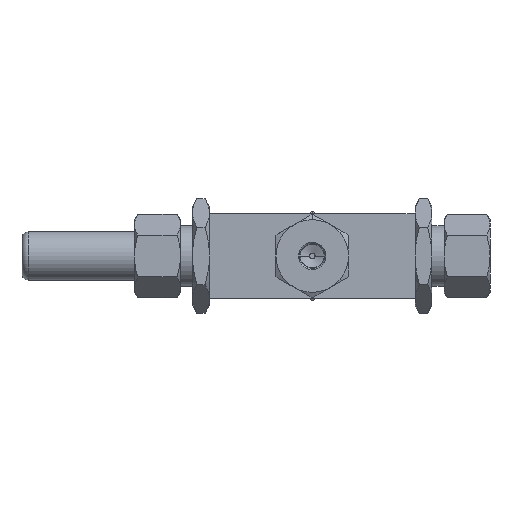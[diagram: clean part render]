
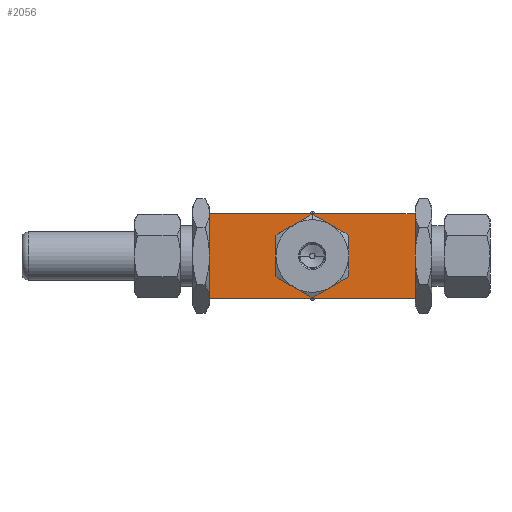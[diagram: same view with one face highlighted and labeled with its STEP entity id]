
A CAD part, front view. The second image highlights one B-rep face of the part: STEP entity #2056.
In plain terms, the highlighted planar face has unit normal (0, -1, 0).
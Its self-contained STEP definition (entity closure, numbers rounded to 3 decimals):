
#29 = LINE ( 'NONE', #6146, #4836 ) ;
#35 = ORIENTED_EDGE ( 'NONE', *, *, #4477, .T. ) ;
#40 = ORIENTED_EDGE ( 'NONE', *, *, #263, .F. ) ;
#58 = DIRECTION ( 'NONE',  ( 1., 0., 0. ) ) ;
#136 = ORIENTED_EDGE ( 'NONE', *, *, #167, .F. ) ;
#167 = EDGE_CURVE ( 'NONE', #4623, #2616, #2093, .T. ) ;
#223 = DIRECTION ( 'NONE',  ( 0., 0., -1. ) ) ;
#228 = CARTESIAN_POINT ( 'NONE',  ( 0., -32.5, 0. ) ) ;
#263 = EDGE_CURVE ( 'NONE', #2726, #4152, #6322, .T. ) ;
#323 = DIRECTION ( 'NONE',  ( 0., 0., -1. ) ) ;
#365 = CARTESIAN_POINT ( 'NONE',  ( 0., -32.5, 0. ) ) ;
#432 = CARTESIAN_POINT ( 'NONE',  ( 42.5, -32.5, -17.5 ) ) ;
#446 = PLANE ( 'NONE',  #1064 ) ;
#551 = CARTESIAN_POINT ( 'NONE',  ( 0., -32.5, 0. ) ) ;
#592 = EDGE_CURVE ( 'NONE', #2616, #2782, #4373, .T. ) ;
#765 = ORIENTED_EDGE ( 'NONE', *, *, #3180, .F. ) ;
#808 = DIRECTION ( 'NONE',  ( 0., 0., -1. ) ) ;
#812 = DIRECTION ( 'NONE',  ( 0., -1., 0. ) ) ;
#813 = EDGE_CURVE ( 'NONE', #6331, #3781, #5864, .T. ) ;
#1064 = AXIS2_PLACEMENT_3D ( 'NONE', #6113, #3560, #3975 ) ;
#1131 = ORIENTED_EDGE ( 'NONE', *, *, #4595, .T. ) ;
#1298 = VERTEX_POINT ( 'NONE', #5596 ) ;
#1411 = CARTESIAN_POINT ( 'NONE',  ( 0., -32.5, 0. ) ) ;
#1499 = FACE_OUTER_BOUND ( 'NONE', #6248, .T. ) ;
#1534 = LINE ( 'NONE', #3595, #5018 ) ;
#1588 = AXIS2_PLACEMENT_3D ( 'NONE', #5927, #1699, #223 ) ;
#1647 = EDGE_CURVE ( 'NONE', #4041, #2726, #29, .T. ) ;
#1699 = DIRECTION ( 'NONE',  ( 0., -1., 0. ) ) ;
#1985 = AXIS2_PLACEMENT_3D ( 'NONE', #551, #2593, #4689 ) ;
#2056 = ADVANCED_FACE ( 'NONE', ( #1499, #3055 ), #446, .F. ) ;
#2093 = CIRCLE ( 'NONE', #1985, 15. ) ;
#2100 = CARTESIAN_POINT ( 'NONE',  ( 7.5, -32.5, -12.99 ) ) ;
#2222 = CARTESIAN_POINT ( 'NONE',  ( -42.5, -32.5, 17.5 ) ) ;
#2285 = CIRCLE ( 'NONE', #3126, 15. ) ;
#2403 = DIRECTION ( 'NONE',  ( 0., 0., -1. ) ) ;
#2480 = DIRECTION ( 'NONE',  ( 0., 0., -1. ) ) ;
#2570 = CIRCLE ( 'NONE', #1588, 15. ) ;
#2593 = DIRECTION ( 'NONE',  ( 0., -1., 0. ) ) ;
#2616 = VERTEX_POINT ( 'NONE', #4665 ) ;
#2706 = ORIENTED_EDGE ( 'NONE', *, *, #5993, .F. ) ;
#2726 = VERTEX_POINT ( 'NONE', #4090 ) ;
#2782 = VERTEX_POINT ( 'NONE', #5921 ) ;
#2936 = EDGE_LOOP ( 'NONE', ( #2706, #5922, #6136, #765, #6231, #136, #5994 ) ) ;
#2968 = AXIS2_PLACEMENT_3D ( 'NONE', #228, #3402, #808 ) ;
#2991 = EDGE_CURVE ( 'NONE', #3781, #3353, #5634, .T. ) ;
#3055 = FACE_BOUND ( 'NONE', #2936, .T. ) ;
#3126 = AXIS2_PLACEMENT_3D ( 'NONE', #365, #4462, #3911 ) ;
#3180 = EDGE_CURVE ( 'NONE', #2782, #6331, #6165, .T. ) ;
#3343 = LINE ( 'NONE', #2222, #4002 ) ;
#3353 = VERTEX_POINT ( 'NONE', #5020 ) ;
#3402 = DIRECTION ( 'NONE',  ( 0., -1., 0. ) ) ;
#3494 = AXIS2_PLACEMENT_3D ( 'NONE', #1411, #4587, #4534 ) ;
#3537 = DIRECTION ( 'NONE',  ( 1., 0., 0. ) ) ;
#3560 = DIRECTION ( 'NONE',  ( 0., 1., 0. ) ) ;
#3595 = CARTESIAN_POINT ( 'NONE',  ( -42.5, -32.5, -17.5 ) ) ;
#3704 = CARTESIAN_POINT ( 'NONE',  ( -42.5, -32.5, 17.5 ) ) ;
#3728 = VERTEX_POINT ( 'NONE', #4738 ) ;
#3781 = VERTEX_POINT ( 'NONE', #5190 ) ;
#3911 = DIRECTION ( 'NONE',  ( 0., 0., -1. ) ) ;
#3975 = DIRECTION ( 'NONE',  ( 0., 0., 1. ) ) ;
#4002 = VECTOR ( 'NONE', #323, 1000. ) ;
#4041 = VERTEX_POINT ( 'NONE', #3704 ) ;
#4090 = CARTESIAN_POINT ( 'NONE',  ( 42.5, -32.5, 17.5 ) ) ;
#4152 = VERTEX_POINT ( 'NONE', #432 ) ;
#4364 = DIRECTION ( 'NONE',  ( 0., 0., -1. ) ) ;
#4373 = CIRCLE ( 'NONE', #3494, 15. ) ;
#4462 = DIRECTION ( 'NONE',  ( 0., -1., 0. ) ) ;
#4469 = ORIENTED_EDGE ( 'NONE', *, *, #1647, .F. ) ;
#4477 = EDGE_CURVE ( 'NONE', #1298, #4152, #1534, .T. ) ;
#4534 = DIRECTION ( 'NONE',  ( 0., 0., -1. ) ) ;
#4587 = DIRECTION ( 'NONE',  ( 0., -1., 0. ) ) ;
#4595 = EDGE_CURVE ( 'NONE', #4041, #1298, #3343, .T. ) ;
#4623 = VERTEX_POINT ( 'NONE', #5902 ) ;
#4665 = CARTESIAN_POINT ( 'NONE',  ( -7.5, -32.5, -12.99 ) ) ;
#4683 = AXIS2_PLACEMENT_3D ( 'NONE', #6602, #4937, #2480 ) ;
#4689 = DIRECTION ( 'NONE',  ( 0., 0., -1. ) ) ;
#4738 = CARTESIAN_POINT ( 'NONE',  ( -7.5, -32.5, 12.99 ) ) ;
#4836 = VECTOR ( 'NONE', #3537, 1000. ) ;
#4858 = CARTESIAN_POINT ( 'NONE',  ( 0., -32.5, 0. ) ) ;
#4924 = CARTESIAN_POINT ( 'NONE',  ( 42.5, -32.5, 17.5 ) ) ;
#4937 = DIRECTION ( 'NONE',  ( 0., -1., 0. ) ) ;
#5018 = VECTOR ( 'NONE', #58, 1000. ) ;
#5020 = CARTESIAN_POINT ( 'NONE',  ( 7.5, -32.5, 12.99 ) ) ;
#5190 = CARTESIAN_POINT ( 'NONE',  ( 15., -32.5, 0. ) ) ;
#5240 = EDGE_CURVE ( 'NONE', #3728, #4623, #2285, .T. ) ;
#5538 = AXIS2_PLACEMENT_3D ( 'NONE', #4858, #812, #2403 ) ;
#5596 = CARTESIAN_POINT ( 'NONE',  ( -42.5, -32.5, -17.5 ) ) ;
#5634 = CIRCLE ( 'NONE', #4683, 15. ) ;
#5755 = VECTOR ( 'NONE', #4364, 1000. ) ;
#5864 = CIRCLE ( 'NONE', #2968, 15. ) ;
#5902 = CARTESIAN_POINT ( 'NONE',  ( -15., -32.5, 0. ) ) ;
#5921 = CARTESIAN_POINT ( 'NONE',  ( 0., -32.5, -15. ) ) ;
#5922 = ORIENTED_EDGE ( 'NONE', *, *, #2991, .F. ) ;
#5927 = CARTESIAN_POINT ( 'NONE',  ( 0., -32.5, 0. ) ) ;
#5993 = EDGE_CURVE ( 'NONE', #3353, #3728, #2570, .T. ) ;
#5994 = ORIENTED_EDGE ( 'NONE', *, *, #5240, .F. ) ;
#6113 = CARTESIAN_POINT ( 'NONE',  ( -42.5, -32.5, 17.5 ) ) ;
#6136 = ORIENTED_EDGE ( 'NONE', *, *, #813, .F. ) ;
#6146 = CARTESIAN_POINT ( 'NONE',  ( -42.5, -32.5, 17.5 ) ) ;
#6165 = CIRCLE ( 'NONE', #5538, 15. ) ;
#6231 = ORIENTED_EDGE ( 'NONE', *, *, #592, .F. ) ;
#6248 = EDGE_LOOP ( 'NONE', ( #35, #40, #4469, #1131 ) ) ;
#6322 = LINE ( 'NONE', #4924, #5755 ) ;
#6331 = VERTEX_POINT ( 'NONE', #2100 ) ;
#6602 = CARTESIAN_POINT ( 'NONE',  ( 0., -32.5, 0. ) ) ;
